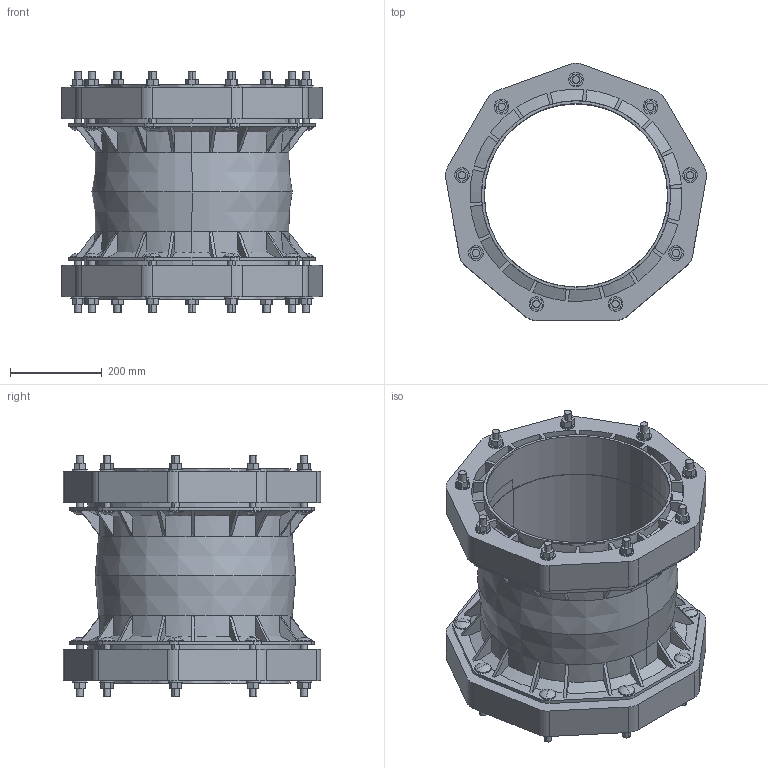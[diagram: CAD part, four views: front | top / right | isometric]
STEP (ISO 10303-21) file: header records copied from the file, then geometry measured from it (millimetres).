
FILE_DESCRIPTION((''),'2;1');
FILE_NAME('BIM_13198_12_ASM','2019-04-09T',('MReader'),(''),'CREO PARAMETRIC BY PTC INC, 2016130','CREO PARAMETRIC BY PTC INC, 2016130','');
FILE_SCHEMA(('CONFIG_CONTROL_DESIGN'));
Length unit declared in the file: millimetre
Products named in the file (3): BIM_13076; BIM_13074; BIM_13198_12_ASM
Assembly tree (3 placements, depth 2):
  BIM_13198_12_ASM
    BIM_13076
    BIM_13074  x2
Bounding box: 568.56 x 561.02 x 525 mm (x, y, z)
Volume: 23454777.6 mm3; surface area: 2470802.8 mm2
Topology: 3 solids, 3 shells, 706 faces, 1942 edges, 1264 vertices
Faces by surface type: plane 388, cylinder 194, cone 88, sphere 36
Entity records: 16755 total; most frequent: CARTESIAN_POINT 3512, ORIENTED_EDGE 2784, DIRECTION 2756, EDGE_CURVE 1392, AXIS2_PLACEMENT_3D 987, VERTEX_POINT 920, VECTOR 782, LINE 782
